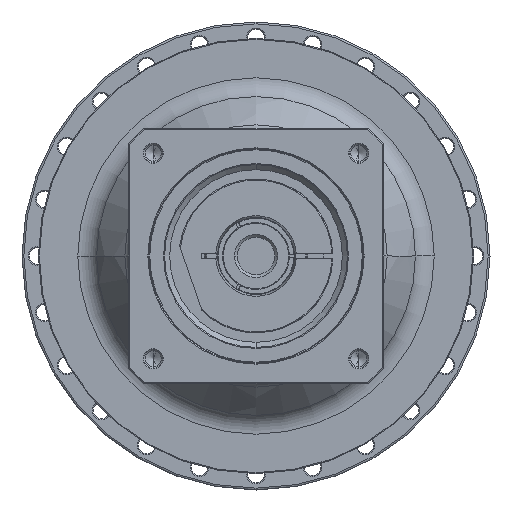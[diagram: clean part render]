
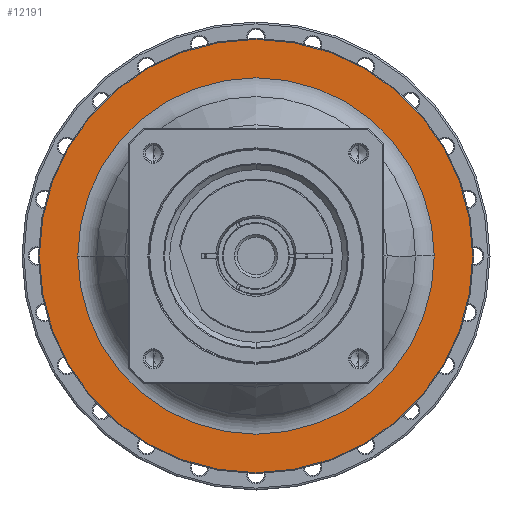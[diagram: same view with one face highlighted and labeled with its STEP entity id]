
A CAD part, left-side view. The second image highlights one B-rep face of the part: STEP entity #12191.
In plain terms, the highlighted planar face has unit normal (-1, 0, 0) as drawn and (1, 0, 0) by its records, which use the part's own axes.
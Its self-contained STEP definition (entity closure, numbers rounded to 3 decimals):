
#11622=CARTESIAN_POINT('',(-33.5,0.,0.));
#11623=DIRECTION('',(1.,0.,0.));
#11624=DIRECTION('',(0.,1.,0.));
#11625=AXIS2_PLACEMENT_3D('',#11622,#11623,#11624);
#11627=CARTESIAN_POINT('',(-33.5,0.,0.));
#11628=DIRECTION('',(1.,0.,0.));
#11629=DIRECTION('',(0.,-1.,0.));
#11630=AXIS2_PLACEMENT_3D('',#11627,#11628,#11629);
#11632=CARTESIAN_POINT('',(-33.5,0.,0.));
#11633=DIRECTION('',(-1.,0.,0.));
#11634=DIRECTION('',(0.,-1.,0.));
#11635=AXIS2_PLACEMENT_3D('',#11632,#11633,#11634);
#11637=CARTESIAN_POINT('',(-33.5,0.,0.));
#11638=DIRECTION('',(-1.,0.,0.));
#11639=DIRECTION('',(0.,1.,0.));
#11640=AXIS2_PLACEMENT_3D('',#11637,#11638,#11639);
#11746=CARTESIAN_POINT('',(-33.5,-115.5,0.));
#11747=CARTESIAN_POINT('',(-33.5,115.5,0.));
#11748=VERTEX_POINT('',#11746);
#11749=VERTEX_POINT('',#11747);
#11810=CARTESIAN_POINT('',(-33.5,95.,0.));
#11811=VERTEX_POINT('',#11810);
#11812=CARTESIAN_POINT('',(-33.5,-95.,0.));
#11813=VERTEX_POINT('',#11812);
#12176=CARTESIAN_POINT('',(-33.5,0.,0.));
#12177=DIRECTION('',(1.,0.,0.));
#12178=DIRECTION('',(0.,-1.,0.));
#12179=AXIS2_PLACEMENT_3D('',#12176,#12177,#12178);
#12180=PLANE('',#12179);
#12181=ORIENTED_EDGE('',*,*,#12117,.T.);
#12182=ORIENTED_EDGE('',*,*,#12132,.T.);
#12183=EDGE_LOOP('',(#12181,#12182));
#12184=FACE_OUTER_BOUND('',#12183,.F.);
#12186=ORIENTED_EDGE('',*,*,#12185,.T.);
#12188=ORIENTED_EDGE('',*,*,#12187,.T.);
#12189=EDGE_LOOP('',(#12186,#12188));
#12190=FACE_BOUND('',#12189,.F.);
#12191=ADVANCED_FACE('',(#12184,#12190),#12180,.T.);
#11626=CIRCLE('',#11625,95.);
#11631=CIRCLE('',#11630,95.);
#11636=CIRCLE('',#11635,115.5);
#11641=CIRCLE('',#11640,115.5);
#12117=EDGE_CURVE('',#11748,#11749,#11636,.T.);
#12132=EDGE_CURVE('',#11749,#11748,#11641,.T.);
#12185=EDGE_CURVE('',#11811,#11813,#11626,.T.);
#12187=EDGE_CURVE('',#11813,#11811,#11631,.T.);
